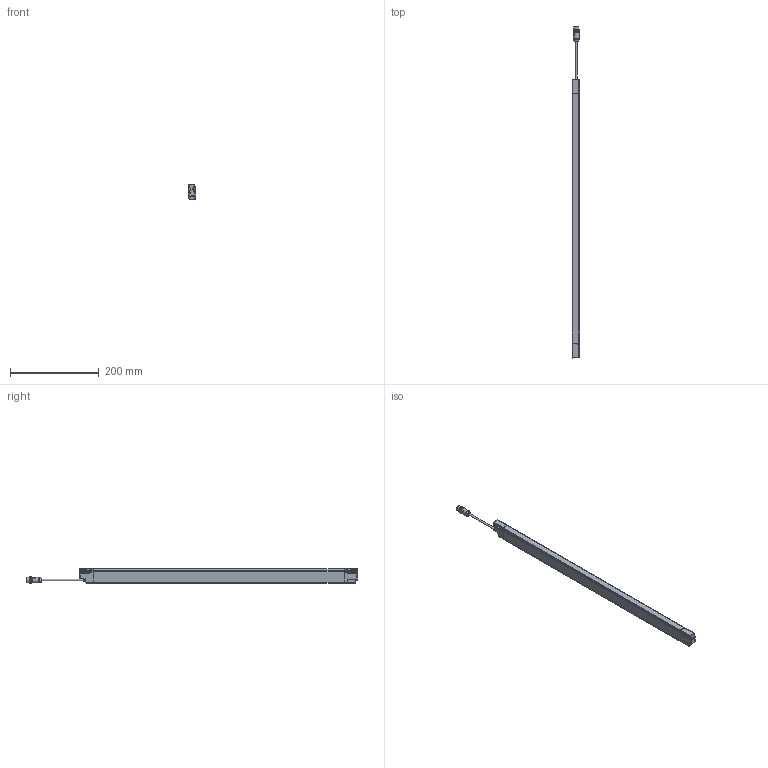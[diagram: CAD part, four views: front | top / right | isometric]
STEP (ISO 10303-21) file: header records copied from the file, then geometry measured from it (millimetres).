
FILE_DESCRIPTION(/* description */ (''),/* implementation_level */ '2;1');
FILE_NAME(/* name */ 'DSD-0636.stp',/* time_stamp */ '2015-02-23T17:29:59+01:00',/* author */ (''),/* organization */ (''),/* preprocessor_version */ 'ST-DEVELOPER v11',/* originating_system */ 'SIEMENS PLM Software NX 7.5',/* authorisation */ '');
FILE_SCHEMA (('AUTOMOTIVE_DESIGN { 1 0 10303 214 1 1 1 1 }'));
Length unit declared in the file: millimetre
Products named in the file (1): AP008115_00
Bounding box: 17.36 x 750.24 x 33.46 mm (x, y, z)
Surface area: 78537.8 mm2 (no closed solid volume)
Topology: 0 solids, 45 shells, 1094 faces, 3770 edges, 2583 vertices
Faces by surface type: cylinder 396, plane 322, bspline 152, torus 112, sphere 70, cone 42
Full cylindrical faces by diameter (mm): 1 x5, 1.2 x2, 2.6 x6, 4 x1, 8.3 x1, 9.4 x1, 10.4 x1, 12 x1, 13 x1, 13.5 x1, 14.5 x2
Entity records: 46987 total; most frequent: CARTESIAN_POINT 15377, DIRECTION 6749, ORIENTED_EDGE 5874, EDGE_CURVE 3642, VERTEX_POINT 2549, AXIS2_PLACEMENT_3D 2541, LINE 1667, VECTOR 1667
